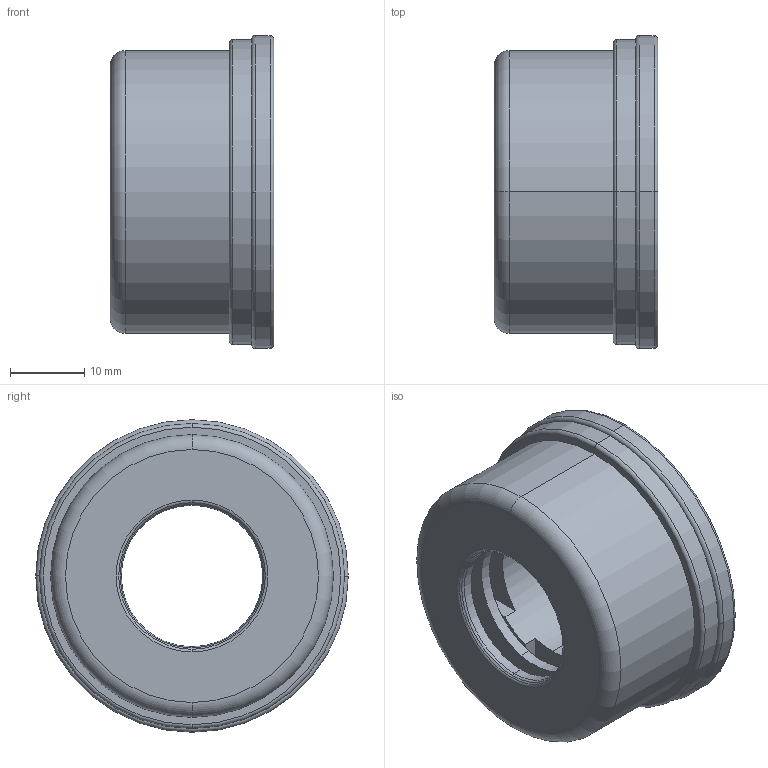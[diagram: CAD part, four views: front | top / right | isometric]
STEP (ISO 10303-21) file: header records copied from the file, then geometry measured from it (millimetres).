
FILE_DESCRIPTION (( 'STEP AP203' ), '1' );
FILE_NAME ('7MMC125-0翐醱噩殤.STEP', '2019-12-04T03:13:51', ( '' ), ( '' ), 'SwSTEP 2.0', 'SolidWorks 2018', '' );
FILE_SCHEMA (( 'CONFIG_CONTROL_DESIGN' ));
Length unit declared in the file: millimetre
Products named in the file (1): 7MMC125-0翐醱噩殤
Bounding box: 22 x 42 x 42 mm (x, y, z)
Volume: 18033.9 mm3; surface area: 11425.6 mm2
Topology: 3 solids, 3 shells, 69 faces, 156 edges, 98 vertices
Faces by surface type: cylinder 26, plane 23, torus 12, cone 8
Entity records: 2045 total; most frequent: DIRECTION 390, CARTESIAN_POINT 324, ORIENTED_EDGE 312, AXIS2_PLACEMENT_3D 164, EDGE_CURVE 156, VERTEX_POINT 98, CIRCLE 94, EDGE_LOOP 80
